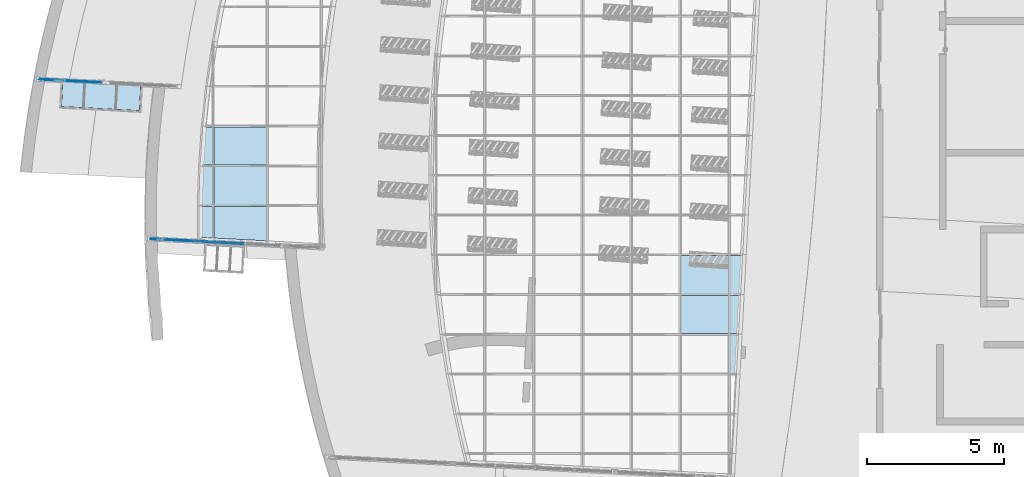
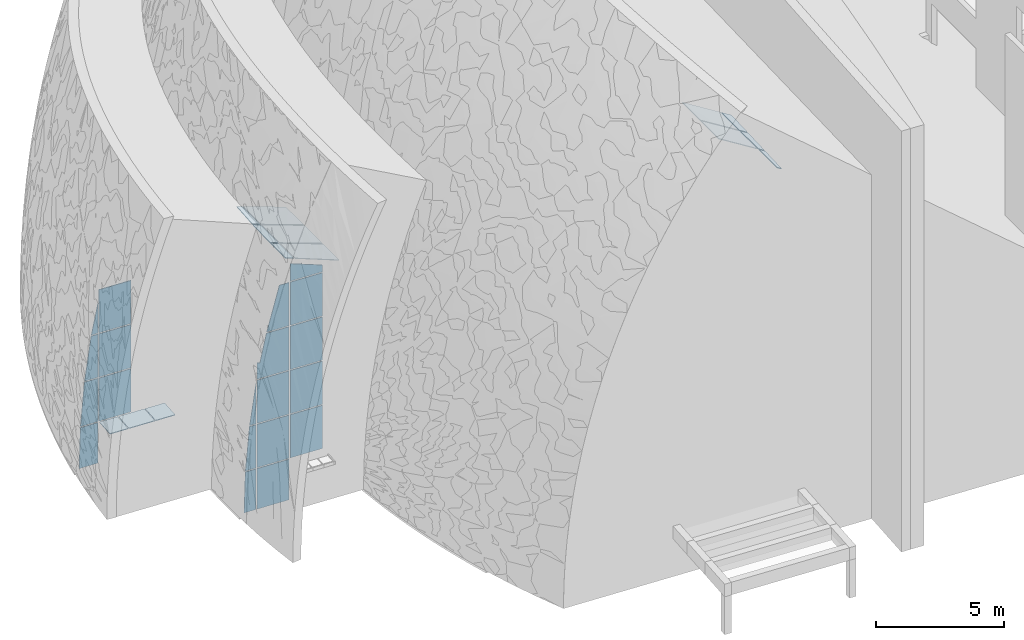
# One storey, part 37 of 82: 34 plates, 4 elements without a shape of their own.
"""IFC2X3 building model written with IfcOpenShell, lengths in millimetres."""

import ifcopenshell
import ifcopenshell.guid

model = None  # the IFC model being written
_history = None  # IfcOwnerHistory: only IFC2X3 demands one
_inside = {}  # id of a spatial element -> (the spatial element, [elements in it])
_under = {}  # id of a project, library or spatial element -> (it, [spatial elements below it])
_declared = {}  # id of a project -> (the project, [libraries it declares])
_typed = {}  # id of a type object -> (the type object, [elements of that type])
_made_of = {}  # id of a material, layer set ... -> (it, [elements and type objects made of it])


def new_model(schema):
    """Start an empty IFC model of exactly this schema.

    Asked for "IFC4X3", IfcOpenShell would pick the latest addendum, in which some entities
    have other attributes; the version numbers below select the first issue.
    IFC2X3 requires an IfcOwnerHistory on every rooted entity: one is made here for all.
    """
    global model, _history
    if schema == "IFC4X3":
        model = ifcopenshell.file(schema_version=(4, 3, 0, 0))
    else:
        model = ifcopenshell.file(schema=schema)
    _inside.clear()
    _under.clear()
    _declared.clear()
    _typed.clear()
    _made_of.clear()
    _history = None
    if model.schema == "IFC2X3":
        org = make("IfcOrganization", Name="unknown")
        user = make(
            "IfcPersonAndOrganization",
            ThePerson=make("IfcPerson", FamilyName="unknown"),
            TheOrganization=org,
        )
        app = make(
            "IfcApplication",
            ApplicationDeveloper=org,
            Version="unknown",
            ApplicationFullName="unknown",
            ApplicationIdentifier="unknown",
        )
        _history = make(
            "IfcOwnerHistory",
            OwningUser=user,
            OwningApplication=app,
            ChangeAction="ADDED",
            CreationDate=0,
        )
    return model


def make(cls, **values):
    """One entity of the class cls with the attributes given. An attribute that is None is left unset."""
    return model.create_entity(
        cls, **{name: value for name, value in values.items() if value is not None}
    )


def entity(cls, *values):
    """Any entity or typed value of the class cls, its attributes in the order of the schema. None: left unset."""
    e = model.create_entity(cls)
    for i, value in enumerate(values):
        if value is not None:
            e[i] = value
    return e


def rooted(cls, **values):
    """An entity with a GlobalId (a new one), such as an element, a storey or a relation."""
    return make(cls, GlobalId=ifcopenshell.guid.new(), OwnerHistory=_history, **values)


def si_unit(unit_type, name, prefix=None):
    """IfcSIUnit, for example si_unit("LENGTHUNIT", "METRE", prefix="MILLI")."""
    return make("IfcSIUnit", UnitType=unit_type, Prefix=prefix, Name=name)


def converted_unit(unit_type, name, factor, base, dimensions=None, offset=None):
    """IfcConversionBasedUnit, such as the inch: factor (a typed value) times the base unit."""
    return make(
        "IfcConversionBasedUnit"
        if offset is None
        else "IfcConversionBasedUnitWithOffset",
        ConversionOffset=offset,
        Dimensions=None
        if dimensions is None
        else entity("IfcDimensionalExponents", *dimensions),
        UnitType=unit_type,
        Name=name,
        ConversionFactor=make(
            "IfcMeasureWithUnit", ValueComponent=factor, UnitComponent=base
        ),
    )


def derived_unit(unit_type, elements):
    """IfcDerivedUnit: a product of units, each with its exponent."""
    return make(
        "IfcDerivedUnit",
        Elements=[
            make("IfcDerivedUnitElement", Unit=unit, Exponent=power)
            for unit, power in elements
        ],
        UnitType=unit_type,
    )


def assignment(units):
    """IfcUnitAssignment: the units of a project."""
    return None if units is None else make("IfcUnitAssignment", Units=units)


def point(xyz):
    """IfcCartesianPoint."""
    return None if xyz is None else make("IfcCartesianPoint", Coordinates=xyz)


def direction(xyz):
    """IfcDirection."""
    return None if xyz is None else make("IfcDirection", DirectionRatios=xyz)


def frame(location, z_axis=None, x_axis=None):
    """IfcAxis2Placement3D, a coordinate frame: its origin and axes. An axis left out is left unset."""
    return make(
        "IfcAxis2Placement3D",
        Location=point(location),
        Axis=direction(z_axis),
        RefDirection=direction(x_axis),
    )


def frame_2d(location, x_axis=None):
    """IfcAxis2Placement2D, a coordinate frame in the plane: its origin and x axis."""
    return make(
        "IfcAxis2Placement2D", Location=point(location), RefDirection=direction(x_axis)
    )


def origin():
    """The frame at (0, 0, 0) with its axes left unset."""
    return frame((0.0, 0.0, 0.0))


def place(relative_to, where):
    """IfcLocalPlacement: puts the frame where relative to a parent placement (None: the world)."""
    return make(
        "IfcLocalPlacement", PlacementRelTo=relative_to, RelativePlacement=where
    )


def context(
    kind, dimensions, precision=None, world=None, true_north=None, identifier=None
):
    """IfcGeometricRepresentationContext, for example the 3D "Model" context."""
    return make(
        "IfcGeometricRepresentationContext",
        ContextIdentifier=identifier,
        ContextType=kind,
        CoordinateSpaceDimension=dimensions,
        Precision=precision,
        WorldCoordinateSystem=world,
        TrueNorth=true_north,
    )


def subcontext(parent, identifier, kind, view, scale=None):
    """IfcGeometricRepresentationSubContext, for example "Body" below "Model"."""
    return make(
        "IfcGeometricRepresentationSubContext",
        ContextIdentifier=identifier,
        ContextType=kind,
        ParentContext=parent,
        TargetScale=scale,
        TargetView=view,
    )


def project(units=None, contexts=None):
    """IfcProject with its units and contexts."""
    return rooted(
        "IfcProject",
        Name="project",
        RepresentationContexts=contexts,
        UnitsInContext=assignment(units),
    )


def spatial(cls, under=None, at=None, **own):
    """A site, building, storey or space (cls), placed at a placement, below another one or the project."""
    s = rooted(cls, ObjectPlacement=at, **own)
    if under is not None:
        _under.setdefault(under.id(), (under, []))[1].append(s)
    return s


def polyline(points):
    """IfcPolyline through the points."""
    return make("IfcPolyline", Points=[point(p) for p in points])


def profile(cls, at=None, kind="AREA", **sizes):
    """A parametric profile (cls). Its sizes go by their IFC names, for example OverallWidth=200.0."""
    return make(cls, ProfileType=kind, Position=at, **sizes)


def rectangle(**sizes):
    """IfcRectangleProfileDef."""
    return profile("IfcRectangleProfileDef", **sizes)


def outline(outer, holes=None, kind="AREA"):
    """IfcArbitraryClosedProfileDef: a profile drawn as a closed curve; with holes, ...WithVoids."""
    if holes is None:
        return make("IfcArbitraryClosedProfileDef", ProfileType=kind, OuterCurve=outer)
    return make(
        "IfcArbitraryProfileDefWithVoids",
        ProfileType=kind,
        OuterCurve=outer,
        InnerCurves=holes,
    )


def extrude(swept, where, along, depth):
    """IfcExtrudedAreaSolid: the profile swept, set in the frame where, extruded along a direction by depth."""
    return make(
        "IfcExtrudedAreaSolid",
        SweptArea=swept,
        Position=where,
        ExtrudedDirection=direction(along),
        Depth=depth,
    )


def shape(context_of_items, identifier, shape_type, items):
    """IfcShapeRepresentation: the items that make up one representation, for example the "Body"."""
    return make(
        "IfcShapeRepresentation",
        ContextOfItems=context_of_items,
        RepresentationIdentifier=identifier,
        RepresentationType=shape_type,
        Items=items,
    )


def source(mapping_origin, context_of_items, identifier, shape_type, items):
    """IfcRepresentationMap: a shape defined once, which mapped items show again and again."""
    return make(
        "IfcRepresentationMap",
        MappingOrigin=mapping_origin,
        MappedRepresentation=shape(context_of_items, identifier, shape_type, items),
    )


def transform(
    local_origin,
    x_axis=None,
    y_axis=None,
    z_axis=None,
    scale=None,
    scale2=None,
    scale3=None,
    uniform=True,
):
    """IfcCartesianTransformationOperator3D, or its non-uniform kind. x_axis, y_axis, z_axis: its Axis1, 2, 3."""
    if uniform:
        return make(
            "IfcCartesianTransformationOperator3D",
            Axis1=direction(x_axis),
            Axis2=direction(y_axis),
            LocalOrigin=point(local_origin),
            Scale=scale,
            Axis3=direction(z_axis),
        )
    return make(
        "IfcCartesianTransformationOperator3DnonUniform",
        Axis1=direction(x_axis),
        Axis2=direction(y_axis),
        LocalOrigin=point(local_origin),
        Scale=scale,
        Axis3=direction(z_axis),
        Scale2=scale2,
        Scale3=scale3,
    )


def mapped(mapping_source, mapping_target):
    """IfcMappedItem: shows the shape of a source again, moved by a transform."""
    return make(
        "IfcMappedItem", MappingSource=mapping_source, MappingTarget=mapping_target
    )


def material(Name=None, Category=None):
    """IfcMaterial."""
    return make("IfcMaterial", Name=Name, Category=Category)


def layer(
    of_material, thickness, ventilated=None, Name=None, Category=None, Priority=None
):
    """IfcMaterialLayer: one layer of a wall or slab, of a material (None: an air gap)."""
    return make(
        "IfcMaterialLayer",
        Material=of_material,
        LayerThickness=thickness,
        IsVentilated=ventilated,
        Name=Name,
        Category=Category,
        Priority=Priority,
    )


def layer_set(layers, Name=None):
    """IfcMaterialLayerSet."""
    return make("IfcMaterialLayerSet", MaterialLayers=layers, LayerSetName=Name)


def layer_usage(for_layer_set, set_direction, sense, offset, extent=None):
    """IfcMaterialLayerSetUsage: how a layer set lies in its element."""
    return make(
        "IfcMaterialLayerSetUsage",
        ForLayerSet=for_layer_set,
        LayerSetDirection=set_direction,
        DirectionSense=sense,
        OffsetFromReferenceLine=offset,
        ReferenceExtent=extent,
    )


def made_of(thing, what):
    """Note that an element or type object is made of a material, layer set ...; save() writes the relation."""
    if what is not None:
        _made_of.setdefault(what.id(), (what, []))[1].append(thing)
    return thing


def type_object(cls, material=None, **own):
    """A type object (cls), such as IfcWallType, which elements share."""
    return made_of(rooted(cls, **own), material)


def type_shapes(of_type, sources):
    """Give a type object the sources (RepresentationMaps) that its elements show as mapped items."""
    of_type.RepresentationMaps = sources


def element(
    cls,
    number,
    at=None,
    inside=None,
    cuts=None,
    type_object=None,
    material=None,
    context=None,
    identifier="Body",
    shape_type=None,
    held_by="IfcProductDefinitionShape",
    body=None,
    shapes=None,
    **own,
):
    """One element of the class cls, such as IfcWall. Its Tag is "e" and its number.

    at: its placement. inside: the storey or other place that contains it. cuts: it is an
    opening in that element (IfcRelVoidsElement). A single representation is given by context,
    identifier, shape_type and body (its items); several are given by shapes. held_by: the class
    of the entity that holds the representations. save() writes the other relations.
    """
    e = rooted(cls, Tag="e%d" % number, ObjectPlacement=at, **own)
    if body is not None:
        shapes = [shape(context, identifier, shape_type, body)]
    if shapes is not None:
        e.Representation = make(held_by, Representations=shapes)
    if inside is not None:
        _inside.setdefault(inside.id(), (inside, []))[1].append(e)
    if cuts is not None:
        rooted(
            "IfcRelVoidsElement", RelatingBuildingElement=cuts, RelatedOpeningElement=e
        )
    if type_object is not None:
        _typed.setdefault(type_object.id(), (type_object, []))[1].append(e)
    return made_of(e, material)


def aggregate(whole, parts):
    """IfcRelAggregates: a whole, such as a stair, and the parts it consists of."""
    return rooted("IfcRelAggregates", RelatingObject=whole, RelatedObjects=parts)


def save(model, path):
    """Write the relations noted so far, then the file.

    IfcRelAggregates (storeys below a building ...), IfcRelContainedInSpatialStructure (elements
    in a storey), IfcRelDefinesByType, IfcRelAssociatesMaterial and IfcRelDeclares: one each for
    every whole, place, type object, material and project.
    """
    for whole, parts in _under.values():
        aggregate(whole, parts)
    for where, things in _inside.values():
        rooted(
            "IfcRelContainedInSpatialStructure",
            RelatedElements=things,
            RelatingStructure=where,
        )
    for kind, things in _typed.values():
        rooted("IfcRelDefinesByType", RelatedObjects=things, RelatingType=kind)
    for what, things in _made_of.values():
        rooted("IfcRelAssociatesMaterial", RelatedObjects=things, RelatingMaterial=what)
    for by, libraries in _declared.values():
        rooted("IfcRelDeclares", RelatingContext=by, RelatedDefinitions=libraries)
    model.write(path)


model = new_model("IFC2X3")

# Units and contexts
model_context = context("Model", 3, precision=0.01, world=origin(), true_north=direction((6.12303176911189e-17, 1.0)))
body_context = subcontext(model_context, "Body", "Model", "MODEL_VIEW")
ifc_project = project(units=[si_unit("LENGTHUNIT", "METRE", prefix="MILLI"), si_unit("AREAUNIT", "SQUARE_METRE"), si_unit("VOLUMEUNIT", "CUBIC_METRE"), converted_unit("PLANEANGLEUNIT", "DEGREE", entity("IfcRatioMeasure", 0.0174532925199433), si_unit("PLANEANGLEUNIT", "RADIAN"), dimensions=[0, 0, 0, 0, 0, 0, 0]), si_unit("MASSUNIT", "GRAM", prefix="KILO"), derived_unit("MASSDENSITYUNIT", [(si_unit("MASSUNIT", "GRAM", prefix="KILO"), 1), (si_unit("LENGTHUNIT", "METRE"), -3)]), si_unit("TIMEUNIT", "SECOND"), si_unit("FREQUENCYUNIT", "HERTZ"), si_unit("THERMODYNAMICTEMPERATUREUNIT", "DEGREE_CELSIUS"), derived_unit("THERMALTRANSMITTANCEUNIT", [(si_unit("MASSUNIT", "GRAM", prefix="KILO"), 1), (si_unit("THERMODYNAMICTEMPERATUREUNIT", "KELVIN"), -1), (si_unit("TIMEUNIT", "SECOND"), -3)]), derived_unit("VOLUMETRICFLOWRATEUNIT", [(si_unit("LENGTHUNIT", "METRE"), 3), (si_unit("TIMEUNIT", "SECOND"), -1)]), si_unit("ELECTRICCURRENTUNIT", "AMPERE"), si_unit("ELECTRICVOLTAGEUNIT", "VOLT"), si_unit("POWERUNIT", "WATT"), si_unit("FORCEUNIT", "NEWTON", prefix="KILO"), si_unit("ILLUMINANCEUNIT", "LUX"), si_unit("LUMINOUSFLUXUNIT", "LUMEN"), si_unit("LUMINOUSINTENSITYUNIT", "CANDELA"), derived_unit("USERDEFINED", [(si_unit("MASSUNIT", "GRAM", prefix="KILO"), -1), (si_unit("LENGTHUNIT", "METRE"), -2), (si_unit("TIMEUNIT", "SECOND"), 3), (si_unit("LUMINOUSFLUXUNIT", "LUMEN"), 1)]), derived_unit("LINEARVELOCITYUNIT", [(si_unit("LENGTHUNIT", "METRE"), 1), (si_unit("TIMEUNIT", "SECOND"), -1)]), si_unit("PRESSUREUNIT", "PASCAL"), derived_unit("USERDEFINED", [(si_unit("LENGTHUNIT", "METRE"), -2), (si_unit("MASSUNIT", "GRAM", prefix="KILO"), 1), (si_unit("TIMEUNIT", "SECOND"), -2)])], contexts=[model_context])

# Site, building, storey
site_placement = place(None, origin())
site = spatial("IfcSite", under=ifc_project, at=site_placement, Name="表面", CompositionType="ELEMENT")
building_placement = place(site_placement, origin())
building = spatial("IfcBuilding", under=site, at=building_placement, CompositionType="ELEMENT")
storey_placement = place(building_placement, origin())
storey = spatial("IfcBuildingStorey", under=building, at=storey_placement, Name="1F", CompositionType="ELEMENT", Elevation=0.0)

# Curtain wall, plates
curtain_wall_type_1 = type_object("IfcCurtainWallType", Name="幕墙系统:1450 x 2100mm", PredefinedType="NOTDEFINED")
curtain_wall_1_placement = place(storey_placement, origin())
curtain_wall_1 = element("IfcCurtainWall", 1, at=curtain_wall_1_placement, inside=storey, type_object=curtain_wall_type_1, Name="幕墙系统:1450 x 2100mm", ObjectType="幕墙系统:1450 x 2100mm")
ifc_material_1 = material(Name="<Unnamed>")
ifc_layer = layer(ifc_material_1, 30.0)
ifc_layer_set = layer_set([ifc_layer], Name="幕墙系统:1450 x 2100mm")
ifc_layer_usage_1 = layer_usage(ifc_layer_set, "AXIS3", "POSITIVE", 0.0)
plate_type_1 = type_object("IfcPlateType", Name="玻璃", PredefinedType="CURTAIN_PANEL", material=ifc_layer_set)
shared_shape_1 = source(origin(), body_context, "Body", "SweptSolid", [
    extrude(outline(polyline([(-962.5, -394.956054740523), (962.5, -394.956054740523), (962.5, 368.055708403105), (-962.5, 421.856401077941), (-962.5, -394.956054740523)])), frame((-13.4501731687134, -15.0, 962.5), z_axis=(0.0, 1.0, 0.0), x_axis=(0.0, 0.0, 1.0)), (0.0, 0.0, 1.0), 30.0),
])
type_shapes(plate_type_1, [shared_shape_1])
plate_1_placement = place(curtain_wall_1_placement, frame((-44665.7843102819, -14264.1762462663, 150.0), z_axis=(0.0, 0.0, 1.0), x_axis=(-0.998629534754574, 0.0523359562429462, 0.0)))
plate_1 = element("IfcPlate", 2, at=plate_1_placement, type_object=plate_type_1, material=ifc_layer_usage_1, Name="系统嵌板:玻璃", ObjectType="玻璃", context=body_context, shape_type="MappedRepresentation", body=[
    mapped(shared_shape_1, transform((0.0, 0.0, 0.0), scale=1.0)),
])
ifc_layer_usage_2 = layer_usage(ifc_layer_set, "AXIS3", "POSITIVE", 0.0)
plate_type_2 = type_object("IfcPlateType", Name="玻璃", PredefinedType="CURTAIN_PANEL", material=ifc_layer_set)
shared_shape_2 = source(origin(), body_context, "Body", "SweptSolid", [
    extrude(rectangle(XDim=30.0, YDim=1400.0, at=frame_2d((0.0, 3.97903932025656e-13), x_axis=(1.0, 0.0))), frame((0.0, 0.0, 0.0), z_axis=(0.0, 0.0, 1.0), x_axis=(0.0, 1.0, 0.0)), (0.0, 0.0, 1.0), 2050.0),
])
type_shapes(plate_type_2, [shared_shape_2])
plate_2_placement = place(curtain_wall_1_placement, frame((-43508.9656378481, -14324.8025439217, 2125.0), z_axis=(0.0, 0.0, 1.0), x_axis=(-0.998629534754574, 0.0523359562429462, 0.0)))
plate_2 = element("IfcPlate", 3, at=plate_2_placement, type_object=plate_type_2, material=ifc_layer_usage_2, Name="系统嵌板:玻璃", ObjectType="玻璃", context=body_context, shape_type="MappedRepresentation", body=[
    mapped(shared_shape_2, transform((0.0, 0.0, 0.0), scale=1.0)),
])
ifc_layer_usage_3 = layer_usage(ifc_layer_set, "AXIS3", "POSITIVE", 0.0)
plate_3_placement = place(curtain_wall_1_placement, frame((-43508.9656378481, -14324.8025439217, 4225.0), z_axis=(0.0, 0.0, 1.0), x_axis=(-0.998629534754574, 0.0523359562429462, 0.0)))
plate_3 = element("IfcPlate", 4, at=plate_3_placement, type_object=plate_type_2, material=ifc_layer_usage_3, Name="系统嵌板:玻璃", ObjectType="玻璃", context=body_context, shape_type="MappedRepresentation", body=[
    mapped(shared_shape_2, transform((0.0, 0.0, 0.0), scale=1.0)),
])
ifc_layer_usage_4 = layer_usage(ifc_layer_set, "AXIS3", "POSITIVE", 0.0)
plate_4_placement = place(curtain_wall_1_placement, frame((-43508.9656378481, -14324.8025439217, 6325.0), z_axis=(0.0, 0.0, 1.0), x_axis=(-0.998629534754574, 0.0523359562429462, 0.0)))
plate_4 = element("IfcPlate", 5, at=plate_4_placement, type_object=plate_type_2, material=ifc_layer_usage_4, Name="系统嵌板:玻璃", ObjectType="玻璃", context=body_context, shape_type="MappedRepresentation", body=[
    mapped(shared_shape_2, transform((0.0, 0.0, 0.0), scale=1.0)),
])

curtain_wall_2_placement = place(storey_placement, origin())
curtain_wall_2 = element("IfcCurtainWall", 6, at=curtain_wall_2_placement, inside=storey, type_object=curtain_wall_type_1, Name="幕墙系统:1450 x 2100mm", ObjectType="幕墙系统:1450 x 2100mm")
ifc_layer_usage_5 = layer_usage(ifc_layer_set, "AXIS3", "POSITIVE", 0.0)
plate_5_placement = place(curtain_wall_2_placement, frame((-19940.3008154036, -21363.9031535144, 12156.2797786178), z_axis=(-0.848048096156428, 0.0, 0.529919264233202), x_axis=(0.0, -1.0, 0.0)))
plate_5 = element("IfcPlate", 7, at=plate_5_placement, type_object=plate_type_2, material=ifc_layer_usage_5, Name="系统嵌板:玻璃", ObjectType="玻璃", context=body_context, shape_type="MappedRepresentation", body=[
    mapped(shared_shape_2, transform((0.0, 0.0, 0.0), scale=1.0)),
])
ifc_layer_usage_6 = layer_usage(ifc_layer_set, "AXIS3", "POSITIVE", 0.0)
plate_6_placement = place(curtain_wall_2_placement, frame((-19940.3008154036, -22813.9031535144, 12156.2797786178), z_axis=(-0.848048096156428, 0.0, 0.529919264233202), x_axis=(0.0, -1.0, 0.0)))
plate_6 = element("IfcPlate", 8, at=plate_6_placement, type_object=plate_type_2, material=ifc_layer_usage_6, Name="系统嵌板:玻璃", ObjectType="玻璃", context=body_context, shape_type="MappedRepresentation", body=[
    mapped(shared_shape_2, transform((0.0, 0.0, 0.0), scale=1.0)),
])

curtain_wall_3_placement = place(storey_placement, origin())
curtain_wall_3 = element("IfcCurtainWall", 9, at=curtain_wall_3_placement, inside=storey, type_object=curtain_wall_type_1, Name="幕墙系统:1450 x 2100mm", ObjectType="幕墙系统:1450 x 2100mm")
ifc_layer_usage_7 = layer_usage(ifc_layer_set, "AXIS3", "POSITIVE", 0.0)
plate_7_placement = place(curtain_wall_3_placement, frame((-36780.117735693, -16671.8767198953, 10707.1363385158), z_axis=(-0.93969262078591, 0.0, 0.342020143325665), x_axis=(0.0, -1.0, 0.0)))
plate_7 = element("IfcPlate", 10, at=plate_7_placement, type_object=plate_type_2, material=ifc_layer_usage_7, Name="系统嵌板:玻璃", ObjectType="玻璃", context=body_context, shape_type="MappedRepresentation", body=[
    mapped(shared_shape_2, transform((0.0, 0.0, 0.0), scale=1.0)),
])
ifc_layer_usage_8 = layer_usage(ifc_layer_set, "AXIS3", "POSITIVE", 0.0)
plate_8_placement = place(curtain_wall_3_placement, frame((-36780.117735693, -18121.8767198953, 10707.1363385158), z_axis=(-0.93969262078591, 0.0, 0.342020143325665), x_axis=(0.0, -1.0, 0.0)))
plate_8 = element("IfcPlate", 11, at=plate_8_placement, type_object=plate_type_2, material=ifc_layer_usage_8, Name="系统嵌板:玻璃", ObjectType="玻璃", context=body_context, shape_type="MappedRepresentation", body=[
    mapped(shared_shape_2, transform((0.0, 0.0, 0.0), scale=1.0)),
])
ifc_layer_usage_9 = layer_usage(ifc_layer_set, "AXIS3", "POSITIVE", 0.0)
plate_9_placement = place(curtain_wall_3_placement, frame((-38302.4575624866, -20201.7775291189, 2125.0), z_axis=(0.0, 0.0, 1.0), x_axis=(-0.998629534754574, 0.0523359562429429, 0.0)))
plate_9 = element("IfcPlate", 12, at=plate_9_placement, type_object=plate_type_2, material=ifc_layer_usage_9, Name="系统嵌板:玻璃", ObjectType="玻璃", context=body_context, shape_type="MappedRepresentation", body=[
    mapped(shared_shape_2, transform((0.0, 0.0, 0.0), scale=1.0)),
])
ifc_layer_usage_10 = layer_usage(ifc_layer_set, "AXIS3", "POSITIVE", 0.0)
plate_10_placement = place(curtain_wall_3_placement, frame((-39750.4703878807, -20125.8903925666, 2125.0), z_axis=(0.0, 0.0, 1.0), x_axis=(-0.998629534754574, 0.0523359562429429, 0.0)))
plate_10 = element("IfcPlate", 13, at=plate_10_placement, type_object=plate_type_2, material=ifc_layer_usage_10, Name="系统嵌板:玻璃", ObjectType="玻璃", context=body_context, shape_type="MappedRepresentation", body=[
    mapped(shared_shape_2, transform((0.0, 0.0, 0.0), scale=1.0)),
])
ifc_layer_usage_11 = layer_usage(ifc_layer_set, "AXIS3", "POSITIVE", 0.0)
plate_11_placement = place(curtain_wall_3_placement, frame((-38302.4575624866, -20201.7775291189, 4225.0), z_axis=(0.0, 0.0, 1.0), x_axis=(-0.998629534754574, 0.0523359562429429, 0.0)))
plate_11 = element("IfcPlate", 14, at=plate_11_placement, type_object=plate_type_2, material=ifc_layer_usage_11, Name="系统嵌板:玻璃", ObjectType="玻璃", context=body_context, shape_type="MappedRepresentation", body=[
    mapped(shared_shape_2, transform((0.0, 0.0, 0.0), scale=1.0)),
])
ifc_layer_usage_12 = layer_usage(ifc_layer_set, "AXIS3", "POSITIVE", 0.0)
plate_12_placement = place(curtain_wall_3_placement, frame((-39750.4703878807, -20125.8903925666, 4225.0), z_axis=(0.0, 0.0, 1.0), x_axis=(-0.998629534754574, 0.0523359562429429, 0.0)))
plate_12 = element("IfcPlate", 15, at=plate_12_placement, type_object=plate_type_2, material=ifc_layer_usage_12, Name="系统嵌板:玻璃", ObjectType="玻璃", context=body_context, shape_type="MappedRepresentation", body=[
    mapped(shared_shape_2, transform((0.0, 0.0, 0.0), scale=1.0)),
])
ifc_layer_usage_13 = layer_usage(ifc_layer_set, "AXIS3", "POSITIVE", 0.0)
plate_13_placement = place(curtain_wall_3_placement, frame((-38302.4575624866, -20201.7775291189, 6325.0), z_axis=(0.0, 0.0, 1.0), x_axis=(-0.998629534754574, 0.0523359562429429, 0.0)))
plate_13 = element("IfcPlate", 16, at=plate_13_placement, type_object=plate_type_2, material=ifc_layer_usage_13, Name="系统嵌板:玻璃", ObjectType="玻璃", context=body_context, shape_type="MappedRepresentation", body=[
    mapped(shared_shape_2, transform((0.0, 0.0, 0.0), scale=1.0)),
])
ifc_layer_usage_14 = layer_usage(ifc_layer_set, "AXIS3", "POSITIVE", 0.0)
plate_14_placement = place(curtain_wall_3_placement, frame((-38302.4575624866, -20201.7775291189, 8425.0), z_axis=(0.0, 0.0, 1.0), x_axis=(-0.998629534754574, 0.0523359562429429, 0.0)))
plate_14 = element("IfcPlate", 17, at=plate_14_placement, type_object=plate_type_2, material=ifc_layer_usage_14, Name="系统嵌板:玻璃", ObjectType="玻璃", context=body_context, shape_type="MappedRepresentation", body=[
    mapped(shared_shape_2, transform((0.0, 0.0, 0.0), scale=1.0)),
])

# Plate
ifc_layer_usage_15 = layer_usage(ifc_layer_set, "AXIS3", "POSITIVE", 0.0)
plate_type_3 = type_object("IfcPlateType", Name="玻璃", PredefinedType="CURTAIN_PANEL", material=ifc_layer_set)
shared_shape_3 = source(origin(), body_context, "Body", "SweptSolid", [
    extrude(outline(polyline([(-1025.0, -336.763990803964), (1025.0, -336.763990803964), (1025.0, 250.552695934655), (-1025.0, 422.975285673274), (-1025.0, -336.763990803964)])), frame((-43.1056474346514, -15.0, 1025.0), z_axis=(0.0, 1.0, 0.0), x_axis=(0.0, 0.0, 1.0)), (0.0, 0.0, 1.0), 30.0),
])
type_shapes(plate_type_3, [shared_shape_3])
plate_15_placement = place(curtain_wall_1_placement, frame((-44637.2868290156, -14265.6697359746, 2125.0), z_axis=(0.0, 0.0, 1.0), x_axis=(-0.998629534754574, 0.0523359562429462, 0.0)))
plate_15 = element("IfcPlate", 18, at=plate_15_placement, type_object=plate_type_3, material=ifc_layer_usage_15, Name="系统嵌板:玻璃", ObjectType="玻璃", context=body_context, shape_type="MappedRepresentation", body=[
    mapped(shared_shape_3, transform((0.0, 0.0, 0.0), scale=1.0)),
])

ifc_layer_usage_16 = layer_usage(ifc_layer_set, "AXIS3", "POSITIVE", 0.0)
plate_type_4 = type_object("IfcPlateType", Name="玻璃", PredefinedType="CURTAIN_PANEL", material=ifc_layer_set)
shared_shape_4 = source(origin(), body_context, "Body", "SweptSolid", [
    extrude(outline(polyline([(-1025.0, -218.066617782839), (1025.0, -218.066617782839), (1025.0, 73.4682718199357), (-1025.0, 362.664963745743), (-1025.0, -218.066617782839)])), frame((-72.2991729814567, -15.0, 1025.0), z_axis=(0.0, 1.0, 0.0), x_axis=(0.0, 0.0, 1.0)), (0.0, 0.0, 1.0), 30.0),
])
type_shapes(plate_type_4, [shared_shape_4])
plate_16_placement = place(curtain_wall_1_placement, frame((-44547.9056434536, -14270.3540054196, 4225.0), z_axis=(0.0, 0.0, 1.0), x_axis=(-0.998629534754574, 0.0523359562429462, 0.0)))
plate_16 = element("IfcPlate", 19, at=plate_16_placement, type_object=plate_type_4, material=ifc_layer_usage_16, Name="系统嵌板:玻璃", ObjectType="玻璃", context=body_context, shape_type="MappedRepresentation", body=[
    mapped(shared_shape_4, transform((0.0, 0.0, 0.0), scale=1.0)),
])

ifc_layer_usage_17 = layer_usage(ifc_layer_set, "AXIS3", "POSITIVE", 0.0)
plate_type_5 = type_object("IfcPlateType", Name="玻璃", PredefinedType="CURTAIN_PANEL", material=ifc_layer_set)
shared_shape_5 = source(origin(), body_context, "Body", "SweptSolid", [
    extrude(outline(polyline([(-470.632154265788, -93.851505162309), (941.264308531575, -93.8515051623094), (-470.632154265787, 187.703010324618), (-470.632154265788, -93.851505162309)])), frame((-46.9257525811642, -15.0, 470.632154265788), z_axis=(0.0, 1.0, 0.0), x_axis=(0.0, 0.0, 1.0)), (0.0, 0.0, 1.0), 30.0),
])
type_shapes(plate_type_5, [shared_shape_5])
plate_17_placement = place(curtain_wall_1_placement, frame((-44398.5221163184, -14278.1828643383, 6325.0), z_axis=(0.0, 0.0, 1.0), x_axis=(-0.998629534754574, 0.0523359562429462, 0.0)))
plate_17 = element("IfcPlate", 20, at=plate_17_placement, type_object=plate_type_5, material=ifc_layer_usage_17, Name="系统嵌板:玻璃", ObjectType="玻璃", context=body_context, shape_type="MappedRepresentation", body=[
    mapped(shared_shape_5, transform((0.0, 0.0, 0.0), scale=1.0)),
])

aggregate(curtain_wall_1, [plate_1, plate_2, plate_15, plate_3, plate_16, plate_4, plate_17])

ifc_layer_usage_18 = layer_usage(ifc_layer_set, "AXIS3", "POSITIVE", 0.0)
plate_type_6 = type_object("IfcPlateType", Name="玻璃", PredefinedType="CURTAIN_PANEL", material=ifc_layer_set)
shared_shape_6 = source(origin(), body_context, "Body", "SweptSolid", [
    extrude(rectangle(XDim=30.0, YDim=1400.0, at=frame_2d((0.0, 3.97903932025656e-13), x_axis=(1.0, 0.0))), frame((0.0, 0.0, 0.0), z_axis=(0.0, 0.0, 1.0), x_axis=(0.0, 1.0, 0.0)), (0.0, 0.0, 1.0), 1925.0),
])
type_shapes(plate_type_6, [shared_shape_6])
plate_18_placement = place(curtain_wall_3_placement, frame((-39750.4703878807, -20125.8903925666, 150.0), z_axis=(0.0, 0.0, 1.0), x_axis=(-0.998629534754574, 0.0523359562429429, 0.0)))
plate_18 = element("IfcPlate", 21, at=plate_18_placement, type_object=plate_type_6, material=ifc_layer_usage_18, Name="系统嵌板:玻璃", ObjectType="玻璃", context=body_context, shape_type="MappedRepresentation", body=[
    mapped(shared_shape_6, transform((0.0, 0.0, 0.0), scale=1.0)),
])

ifc_layer_usage_19 = layer_usage(ifc_layer_set, "AXIS3", "POSITIVE", 0.0)
plate_type_7 = type_object("IfcPlateType", Name="玻璃", PredefinedType="CURTAIN_PANEL", material=ifc_layer_set)
shared_shape_7 = source(origin(), body_context, "Body", "SweptSolid", [
    extrude(outline(polyline([(-278.440116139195, -700.0), (235.181431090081, -700.0), (235.181431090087, 700.0), (-191.922746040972, 700.0), (-278.440116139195, -700.0)])), frame((0.0, -15.0, 278.440116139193), z_axis=(0.0, 1.0, 0.0), x_axis=(0.0, 0.0, 1.0)), (0.0, 0.0, 1.0), 30.0),
])
type_shapes(plate_type_7, [shared_shape_7])
plate_19_placement = place(curtain_wall_2_placement, frame((-19462.322635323, -21363.9031535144, 11857.6058630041), z_axis=(-0.848048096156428, 0.0, 0.529919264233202), x_axis=(0.0, -1.0, 0.0)))
plate_19 = element("IfcPlate", 22, at=plate_19_placement, type_object=plate_type_7, material=ifc_layer_usage_19, Name="系统嵌板:玻璃", ObjectType="玻璃", context=body_context, shape_type="MappedRepresentation", body=[
    mapped(shared_shape_7, transform((0.0, 0.0, 0.0), scale=1.0)),
])

ifc_layer_usage_20 = layer_usage(ifc_layer_set, "AXIS3", "POSITIVE", 0.0)
plate_type_8 = type_object("IfcPlateType", Name="玻璃", PredefinedType="CURTAIN_PANEL", material=ifc_layer_set)
shared_shape_8 = source(origin(), body_context, "Body", "SweptSolid", [
    extrude(outline(polyline([(-233.636478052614, -700.0), (190.377793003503, -700.0), (190.377793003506, 700.0), (-147.119107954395, 700.0), (-233.636478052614, -700.0)])), frame((0.0, -15.0, 233.636478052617), z_axis=(0.0, 1.0, 0.0), x_axis=(0.0, 0.0, 1.0)), (0.0, 0.0, 1.0), 30.0),
])
type_shapes(plate_type_8, [shared_shape_8])
plate_20_placement = place(curtain_wall_2_placement, frame((-19538.3139152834, -22813.9031535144, 11905.0904848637), z_axis=(-0.848048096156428, 0.0, 0.529919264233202), x_axis=(0.0, -1.0, 0.0)))
plate_20 = element("IfcPlate", 23, at=plate_20_placement, type_object=plate_type_8, material=ifc_layer_usage_20, Name="系统嵌板:玻璃", ObjectType="玻璃", context=body_context, shape_type="MappedRepresentation", body=[
    mapped(shared_shape_8, transform((0.0, 0.0, 0.0), scale=1.0)),
])

ifc_layer_usage_21 = layer_usage(ifc_layer_set, "AXIS3", "POSITIVE", 0.0)
plate_type_9 = type_object("IfcPlateType", Name="玻璃", PredefinedType="CURTAIN_PANEL", material=ifc_layer_set)
shared_shape_9 = source(origin(), body_context, "Body", "SweptSolid", [
    extrude(outline(polyline([(-188.832839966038, -700.0), (145.574154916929, -700.0), (145.574154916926, 700.0), (-102.315469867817, 700.0), (-188.832839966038, -700.0)])), frame((0.0, -15.0, 188.832839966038), z_axis=(0.0, 1.0, 0.0), x_axis=(0.0, 0.0, 1.0)), (0.0, 0.0, 1.0), 30.0),
])
type_shapes(plate_type_9, [shared_shape_9])
plate_21_placement = place(curtain_wall_2_placement, frame((-19614.3051952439, -24263.9031535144, 11952.5751067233), z_axis=(-0.848048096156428, 0.0, 0.529919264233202), x_axis=(0.0, -1.0, 0.0)))
plate_21 = element("IfcPlate", 24, at=plate_21_placement, type_object=plate_type_9, material=ifc_layer_usage_21, Name="系统嵌板:玻璃", ObjectType="玻璃", context=body_context, shape_type="MappedRepresentation", body=[
    mapped(shared_shape_9, transform((0.0, 0.0, 0.0), scale=1.0)),
])

aggregate(curtain_wall_2, [plate_19, plate_20, plate_21, plate_5, plate_6])

ifc_layer_usage_22 = layer_usage(ifc_layer_set, "AXIS3", "POSITIVE", 0.0)
plate_type_10 = type_object("IfcPlateType", Name="玻璃", PredefinedType="CURTAIN_PANEL", material=ifc_layer_set)
shared_shape_10 = source(origin(), body_context, "Body", "SweptSolid", [
    extrude(outline(polyline([(-1025.0, -604.511544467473), (1025.0, -604.511544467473), (1025.0, 554.033160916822), (-1025.0, 654.989928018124), (-1025.0, -604.511544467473)])), frame((-25.2391917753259, -15.0, 1025.0), z_axis=(0.0, 1.0, 0.0), x_axis=(0.0, 0.0, 1.0)), (0.0, 0.0, 1.0), 30.0),
])
type_shapes(plate_type_10, [shared_shape_10])
plate_22_placement = place(curtain_wall_3_placement, frame((-36780.1177356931, -19501.6274561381, 10707.1363385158), z_axis=(-0.93969262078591, 0.0, 0.342020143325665), x_axis=(0.0, -1.0, 0.0)))
plate_22 = element("IfcPlate", 25, at=plate_22_placement, type_object=plate_type_10, material=ifc_layer_usage_22, Name="系统嵌板:玻璃", ObjectType="玻璃", context=body_context, shape_type="MappedRepresentation", body=[
    mapped(shared_shape_10, transform((0.0, 0.0, 0.0), scale=1.0)),
])

ifc_layer_usage_23 = layer_usage(ifc_layer_set, "AXIS3", "POSITIVE", 0.0)
plate_type_11 = type_object("IfcPlateType", Name="玻璃", PredefinedType="CURTAIN_PANEL", material=ifc_layer_set)
shared_shape_11 = source(origin(), body_context, "Body", "SweptSolid", [
    extrude(outline(polyline([(-151.494680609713, -700.0), (99.7453982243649, -700.0), (203.243962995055, 700.0), (-151.494680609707, 700.0), (-151.494680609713, -700.0)])), frame((0.0, -15.0, 151.494680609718), z_axis=(0.0, 1.0, 0.0), x_axis=(0.0, 0.0, 1.0)), (0.0, 0.0, 1.0), 30.0),
])
type_shapes(plate_type_11, [shared_shape_11])
plate_23_placement = place(curtain_wall_3_placement, frame((-38753.4722393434, -16671.8767198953, 11425.3786394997), z_axis=(-0.93969262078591, 0.0, 0.342020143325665), x_axis=(0.0, -1.0, 0.0)))
plate_23 = element("IfcPlate", 26, at=plate_23_placement, type_object=plate_type_11, material=ifc_layer_usage_23, Name="系统嵌板:玻璃", ObjectType="玻璃", context=body_context, shape_type="MappedRepresentation", body=[
    mapped(shared_shape_11, transform((0.0, 0.0, 0.0), scale=1.0)),
])

ifc_layer_usage_24 = layer_usage(ifc_layer_set, "AXIS3", "POSITIVE", 0.0)
plate_type_12 = type_object("IfcPlateType", Name="玻璃", PredefinedType="CURTAIN_PANEL", material=ifc_layer_set)
shared_shape_12 = source(origin(), body_context, "Body", "SweptSolid", [
    extrude(outline(polyline([(-190.76004898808, -700.0), (166.998356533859, -700.0), (214.521741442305, 700.0), (-190.760048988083, 700.0), (-190.76004898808, -700.0)])), frame((0.0, -15.0, 190.760048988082), z_axis=(0.0, 1.0, 0.0), x_axis=(0.0, 0.0, 1.0)), (0.0, 0.0, 1.0), 30.0),
])
type_shapes(plate_type_12, [shared_shape_12])
plate_24_placement = place(curtain_wall_3_placement, frame((-38753.4722393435, -18121.8767198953, 11425.3786394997), z_axis=(-0.93969262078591, 0.0, 0.342020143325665), x_axis=(0.0, -1.0, 0.0)))
plate_24 = element("IfcPlate", 27, at=plate_24_placement, type_object=plate_type_12, material=ifc_layer_usage_24, Name="系统嵌板:玻璃", ObjectType="玻璃", context=body_context, shape_type="MappedRepresentation", body=[
    mapped(shared_shape_12, transform((0.0, 0.0, 0.0), scale=1.0)),
])

ifc_layer_usage_25 = layer_usage(ifc_layer_set, "AXIS3", "POSITIVE", 0.0)
plate_type_13 = type_object("IfcPlateType", Name="玻璃", PredefinedType="CURTAIN_PANEL", material=ifc_layer_set)
shared_shape_13 = source(origin(), body_context, "Body", "SweptSolid", [
    extrude(outline(polyline([(-201.959326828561, -573.095295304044), (204.159551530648, -573.095295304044), (199.759102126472, 563.20354070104), (-201.95932682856, 582.987049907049), (-201.959326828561, -573.095295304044)])), frame((-4.94587730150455, -15.0, 201.95932682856), z_axis=(0.0, 1.0, 0.0), x_axis=(0.0, 0.0, 1.0)), (0.0, 0.0, 1.0), 30.0),
])
type_shapes(plate_type_13, [shared_shape_13])
plate_25_placement = place(curtain_wall_3_placement, frame((-38753.4722393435, -19449.9178925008, 11425.3786394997), z_axis=(-0.93969262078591, 0.0, 0.342020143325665), x_axis=(0.0, -1.0, 0.0)))
plate_25 = element("IfcPlate", 28, at=plate_25_placement, type_object=plate_type_13, material=ifc_layer_usage_25, Name="系统嵌板:玻璃", ObjectType="玻璃", context=body_context, shape_type="MappedRepresentation", body=[
    mapped(shared_shape_13, transform((0.0, 0.0, 0.0), scale=1.0)),
])

ifc_layer_usage_26 = layer_usage(ifc_layer_set, "AXIS3", "POSITIVE", 0.0)
plate_type_14 = type_object("IfcPlateType", Name="玻璃", PredefinedType="CURTAIN_PANEL", material=ifc_layer_set)
shared_shape_14 = source(origin(), body_context, "Body", "SweptSolid", [
    extrude(outline(polyline([(-962.500000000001, -246.458426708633), (962.499999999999, -246.458426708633), (962.500000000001, 218.638044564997), (-962.499999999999, 274.278808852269), (-962.500000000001, -246.458426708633)])), frame((-13.9101910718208, -15.0, 962.5), z_axis=(0.0, 1.0, 0.0), x_axis=(0.0, 0.0, 1.0)), (0.0, 0.0, 1.0), 30.0),
])
type_shapes(plate_type_14, [shared_shape_14])
plate_26_placement = place(curtain_wall_3_placement, frame((-40759.4543305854, -20073.0117847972, 150.0), z_axis=(0.0, 0.0, 1.0), x_axis=(-0.998629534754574, 0.0523359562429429, 0.0)))
plate_26 = element("IfcPlate", 29, at=plate_26_placement, type_object=plate_type_14, material=ifc_layer_usage_26, Name="系统嵌板:玻璃", ObjectType="玻璃", context=body_context, shape_type="MappedRepresentation", body=[
    mapped(shared_shape_14, transform((0.0, 0.0, 0.0), scale=1.0)),
])

ifc_layer_usage_27 = layer_usage(ifc_layer_set, "AXIS3", "POSITIVE", 0.0)
plate_type_15 = type_object("IfcPlateType", Name="玻璃", PredefinedType="CURTAIN_PANEL", material=ifc_layer_set)
shared_shape_15 = source(origin(), body_context, "Body", "SweptSolid", [
    extrude(outline(polyline([(-1025.0, -186.257658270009), (1025.0, -186.257658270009), (1025.0, 97.0782334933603), (-1025.0, 275.437083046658), (-1025.0, -186.257658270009)])), frame((-44.5897123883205, -15.0, 1025.0), z_axis=(0.0, 1.0, 0.0), x_axis=(0.0, 0.0, 1.0)), (0.0, 0.0, 1.0), 30.0),
])
type_shapes(plate_type_15, [shared_shape_15])
plate_27_placement = place(curtain_wall_3_placement, frame((-40729.9735413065, -20074.5568074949, 2125.0), z_axis=(0.0, 0.0, 1.0), x_axis=(-0.998629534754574, 0.0523359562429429, 0.0)))
plate_27 = element("IfcPlate", 30, at=plate_27_placement, type_object=plate_type_15, material=ifc_layer_usage_27, Name="系统嵌板:玻璃", ObjectType="玻璃", context=body_context, shape_type="MappedRepresentation", body=[
    mapped(shared_shape_15, transform((0.0, 0.0, 0.0), scale=1.0)),
])

ifc_layer_usage_28 = layer_usage(ifc_layer_set, "AXIS3", "POSITIVE", 0.0)
plate_type_16 = type_object("IfcPlateType", Name="玻璃", PredefinedType="CURTAIN_PANEL", material=ifc_layer_set)
shared_shape_16 = source(origin(), body_context, "Body", "SweptSolid", [
    extrude(outline(polyline([(-631.277447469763, -92.1624905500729), (1262.55489493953, -92.162490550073), (-631.277447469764, 184.324981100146), (-631.277447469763, -92.1624905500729)])), frame((-46.0812452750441, -15.0, 631.277447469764), z_axis=(0.0, 1.0, 0.0), x_axis=(0.0, 0.0, 1.0)), (0.0, 0.0, 1.0), 30.0),
])
type_shapes(plate_type_16, [shared_shape_16])
plate_28_placement = place(curtain_wall_3_placement, frame((-40637.4968165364, -20079.4033072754, 4225.0), z_axis=(0.0, 0.0, 1.0), x_axis=(-0.998629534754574, 0.0523359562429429, 0.0)))
plate_28 = element("IfcPlate", 31, at=plate_28_placement, type_object=plate_type_16, material=ifc_layer_usage_28, Name="系统嵌板:玻璃", ObjectType="玻璃", context=body_context, shape_type="MappedRepresentation", body=[
    mapped(shared_shape_16, transform((0.0, 0.0, 0.0), scale=1.0)),
])

ifc_layer_usage_29 = layer_usage(ifc_layer_set, "AXIS3", "POSITIVE", 0.0)
plate_type_17 = type_object("IfcPlateType", Name="玻璃", PredefinedType="CURTAIN_PANEL", material=ifc_layer_set)
shared_shape_17 = source(origin(), body_context, "Body", "SweptSolid", [
    extrude(outline(polyline([(-936.564070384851, -845.305009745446), (1113.43592961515, -845.305009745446), (1113.43592961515, 148.076073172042), (-192.862459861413, 433.143965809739), (-160.881258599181, 554.694990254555), (-936.564070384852, 554.694990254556), (-936.564070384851, -845.305009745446)])), frame((145.305009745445, -15.0, 936.564070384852), z_axis=(0.0, 1.0, 0.0), x_axis=(0.0, 0.0, 1.0)), (0.0, 0.0, 1.0), 30.0),
])
type_shapes(plate_type_17, [shared_shape_17])
plate_29_placement = place(curtain_wall_3_placement, frame((-39750.4703878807, -20125.8903925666, 6325.0), z_axis=(0.0, 0.0, 1.0), x_axis=(-0.998629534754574, 0.0523359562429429, 0.0)))
plate_29 = element("IfcPlate", 32, at=plate_29_placement, type_object=plate_type_17, material=ifc_layer_usage_29, Name="系统嵌板:玻璃", ObjectType="玻璃", context=body_context, shape_type="MappedRepresentation", body=[
    mapped(shared_shape_17, transform((0.0, 0.0, 0.0), scale=1.0)),
])

ifc_layer_usage_30 = layer_usage(ifc_layer_set, "AXIS3", "POSITIVE", 0.0)
plate_type_18 = type_object("IfcPlateType", Name="玻璃", PredefinedType="CURTAIN_PANEL", material=ifc_layer_set)
shared_shape_18 = source(origin(), body_context, "Body", "SweptSolid", [
    extrude(outline(polyline([(-1025.0, -351.672225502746), (1025.0, -351.672225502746), (1025.0, 75.6377099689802), (-1025.0, 627.706741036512), (-1025.0, -351.672225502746)])), frame((-138.01725776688, -15.0, 1025.0), z_axis=(0.0, 1.0, 0.0), x_axis=(0.0, 0.0, 1.0)), (0.0, 0.0, 1.0), 30.0),
])
type_shapes(plate_type_18, [shared_shape_18])
plate_30_placement = place(curtain_wall_3_placement, frame((-39540.4480944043, -20136.8971945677, 8425.0), z_axis=(0.0, 0.0, 1.0), x_axis=(-0.998629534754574, 0.0523359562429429, 0.0)))
plate_30 = element("IfcPlate", 33, at=plate_30_placement, type_object=plate_type_18, material=ifc_layer_usage_30, Name="系统嵌板:玻璃", ObjectType="玻璃", context=body_context, shape_type="MappedRepresentation", body=[
    mapped(shared_shape_18, transform((0.0, 0.0, 0.0), scale=1.0)),
])

ifc_layer_usage_31 = layer_usage(ifc_layer_set, "AXIS3", "POSITIVE", 0.0)
plate_type_19 = type_object("IfcPlateType", Name="玻璃", PredefinedType="CURTAIN_PANEL", material=ifc_layer_set)
shared_shape_19 = source(origin(), body_context, "Body", "SweptSolid", [
    extrude(outline(polyline([(-288.310815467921, -700.0), (33.8808174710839, -700.0), (542.740813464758, 700.0), (-288.310815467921, 700.0), (-288.310815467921, -700.0)])), frame((0.0, -15.0, 288.310815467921), z_axis=(0.0, 1.0, 0.0), x_axis=(0.0, 0.0, 1.0)), (0.0, 0.0, 1.0), 30.0),
])
type_shapes(plate_type_19, [shared_shape_19])
plate_31_placement = place(curtain_wall_3_placement, frame((-38302.4575624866, -20201.7775291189, 10525.0), z_axis=(0.0, 0.0, 1.0), x_axis=(-0.998629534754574, 0.0523359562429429, 0.0)))
plate_31 = element("IfcPlate", 34, at=plate_31_placement, type_object=plate_type_19, material=ifc_layer_usage_31, Name="系统嵌板:玻璃", ObjectType="玻璃", context=body_context, shape_type="MappedRepresentation", body=[
    mapped(shared_shape_19, transform((0.0, 0.0, 0.0), scale=1.0)),
])

aggregate(curtain_wall_3, [plate_7, plate_8, plate_22, plate_23, plate_24, plate_25, plate_18, plate_26, plate_9, plate_10, plate_27, plate_11, plate_12, plate_28, plate_13, plate_29, plate_14, plate_30, plate_31])

# Roof, plates
curtain_wall_type_2 = type_object("IfcCurtainWallType", Name="玻璃斜窗:玻璃斜窗 2", PredefinedType="NOTDEFINED")
roof_placement = place(storey_placement, origin())
roof = element("IfcRoof", 35, at=roof_placement, inside=storey, type_object=curtain_wall_type_2, Name="玻璃斜窗:玻璃斜窗 2", ObjectType="玻璃斜窗:玻璃斜窗 2", ShapeType="NOTDEFINED")
ifc_material_2 = material(Name="玻璃")
plate_type_20 = type_object("IfcPlateType", Name="玻璃嵌板", PredefinedType="CURTAIN_PANEL", material=ifc_material_2)
shared_shape_20 = source(origin(), body_context, "Body", "SweptSolid", [
    extrude(rectangle(XDim=30.0, YDim=794.999999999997, at=frame_2d((0.0, 5.6843418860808e-14), x_axis=(1.0, 0.0))), frame((0.0, 0.0, 0.0), z_axis=(0.0, 0.0, 1.0), x_axis=(0.0, 1.0, 0.0)), (0.0, 0.0, 1.0), 900.000000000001),
])
type_shapes(plate_type_20, [shared_shape_20])
plate_32_placement = place(roof_placement, frame((-43860.7702305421, -15257.6689751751, 2100.0), z_axis=(0.0523359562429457, 0.998629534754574, 0.0), x_axis=(0.998629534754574, -0.0523359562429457, 0.0)))
plate_32 = element("IfcPlate", 36, at=plate_32_placement, type_object=plate_type_20, material=ifc_material_2, Name="玻璃嵌板:玻璃嵌板", ObjectType="玻璃嵌板", context=body_context, shape_type="MappedRepresentation", body=[
    mapped(shared_shape_20, transform((0.0, 0.0, 0.0), scale=1.0)),
])
plate_type_21 = type_object("IfcPlateType", Name="玻璃嵌板", PredefinedType="CURTAIN_PANEL", material=ifc_material_2)
shared_shape_21 = source(origin(), body_context, "Body", "SweptSolid", [
    extrude(rectangle(XDim=30.0, YDim=1139.99999999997, at=frame_2d((0.0, 5.6843418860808e-14), x_axis=(1.0, 0.0))), frame((0.0, 0.0, 0.0), z_axis=(0.0, 0.0, 1.0), x_axis=(0.0, 1.0, 0.0)), (0.0, 0.0, 1.0), 899.999999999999),
])
type_shapes(plate_type_21, [shared_shape_21])
plate_33_placement = place(roof_placement, frame((-42864.6372696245, -15309.8740915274, 2100.0), z_axis=(0.0523359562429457, 0.998629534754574, 0.0), x_axis=(0.998629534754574, -0.0523359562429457, 0.0)))
plate_33 = element("IfcPlate", 37, at=plate_33_placement, type_object=plate_type_21, material=ifc_material_2, Name="玻璃嵌板:玻璃嵌板", ObjectType="玻璃嵌板", context=body_context, shape_type="MappedRepresentation", body=[
    mapped(shared_shape_21, transform((0.0, 0.0, 0.0), scale=1.0)),
])
plate_type_22 = type_object("IfcPlateType", Name="玻璃嵌板", PredefinedType="CURTAIN_PANEL", material=ifc_material_2)
shared_shape_22 = source(origin(), body_context, "Body", "SweptSolid", [
    extrude(rectangle(XDim=30.0, YDim=854.999999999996, at=frame_2d((0.0, 5.6843418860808e-14), x_axis=(1.0, 0.0))), frame((0.0, 0.0, 0.0), z_axis=(0.0, 0.0, 1.0), x_axis=(0.0, 1.0, 0.0)), (0.0, 0.0, 1.0), 899.999999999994),
])
type_shapes(plate_type_22, [shared_shape_22])
plate_34_placement = place(roof_placement, frame((-41838.5454226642, -15363.6492865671, 2100.0), z_axis=(0.0523359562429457, 0.998629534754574, 0.0), x_axis=(0.998629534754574, -0.0523359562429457, 0.0)))
plate_34 = element("IfcPlate", 38, at=plate_34_placement, type_object=plate_type_22, material=ifc_material_2, Name="玻璃嵌板:玻璃嵌板", ObjectType="玻璃嵌板", context=body_context, shape_type="MappedRepresentation", body=[
    mapped(shared_shape_22, transform((0.0, 0.0, 0.0), scale=1.0)),
])
aggregate(roof, [plate_32, plate_33, plate_34])

save(model, "model.ifc")
